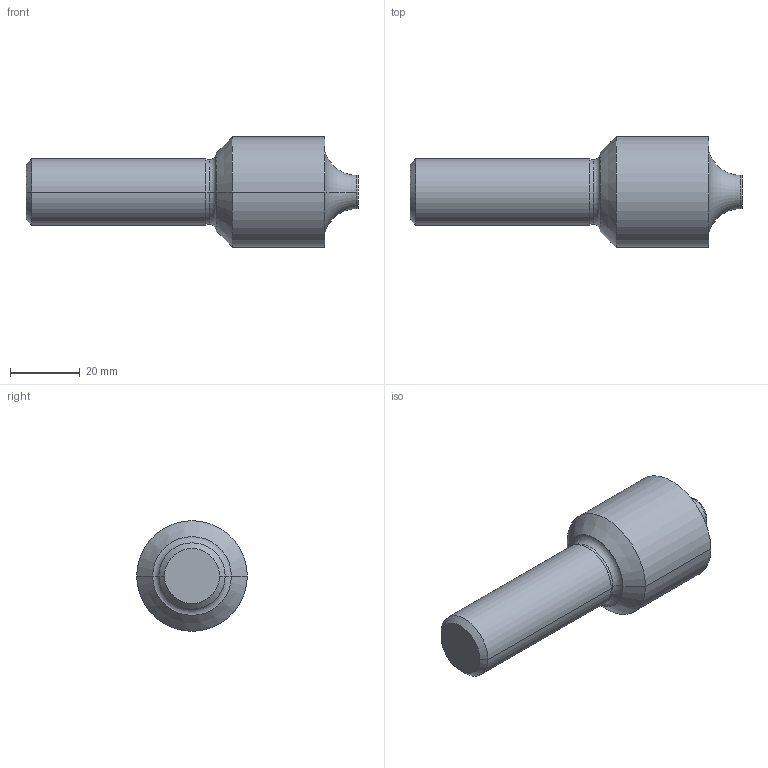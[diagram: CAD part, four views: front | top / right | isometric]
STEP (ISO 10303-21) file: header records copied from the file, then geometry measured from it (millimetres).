
FILE_DESCRIPTION (( 'STEP AP214' ), '1' );
FILE_NAME ('EQ237902.STEP', '2022-01-26T02:15:35', ( 'USER' ), ( '' ), 'SwSTEP 2.0', 'SolidWorks 2014', '' );
FILE_SCHEMA (( 'AUTOMOTIVE_DESIGN' ));
Length unit declared in the file: millimetre
Products named in the file (1): EQ237902
Bounding box: 95.25 x 31.75 x 31.75 mm (x, y, z)
Volume: 40559.9 mm3; surface area: 7786.9 mm2
Topology: 1 solids, 1 shells, 20 faces, 38 edges, 22 vertices
Faces by surface type: cylinder 8, cone 4, torus 4, plane 4
Entity records: 542 total; most frequent: DIRECTION 106, CARTESIAN_POINT 81, ORIENTED_EDGE 76, AXIS2_PLACEMENT_3D 47, EDGE_CURVE 38, CIRCLE 26, VERTEX_POINT 22, EDGE_LOOP 22
